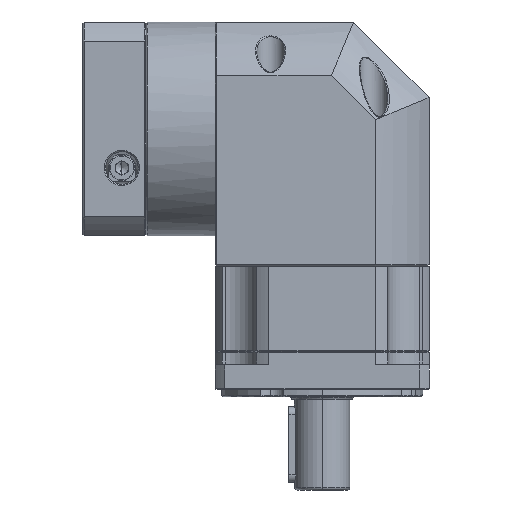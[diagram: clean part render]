
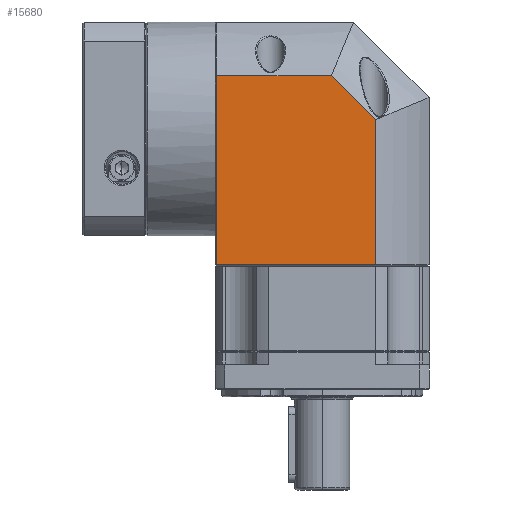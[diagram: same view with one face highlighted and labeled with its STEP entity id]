
A CAD part, left-side view. The second image highlights one B-rep face of the part: STEP entity #15680.
In plain terms, the highlighted planar face has unit normal (-1, 0, 0).
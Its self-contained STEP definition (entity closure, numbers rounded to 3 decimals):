
#1734 = PLANE ( 'NONE',  #44242 ) ;
#3675 = CARTESIAN_POINT ( 'NONE',  ( -91.772, 84.127, -26.339 ) ) ;
#5050 = CARTESIAN_POINT ( 'NONE',  ( -91.772, 38.444, 48.874 ) ) ;
#10271 = CARTESIAN_POINT ( 'NONE',  ( -91.772, 20.913, -26.339 ) ) ;
#10307 = LINE ( 'NONE', #114580, #62284 ) ;
#15680 = ADVANCED_FACE ( 'NONE', ( #88033 ), #1734, .F. ) ;
#15729 = VERTEX_POINT ( 'NONE', #86534 ) ;
#17312 = DIRECTION ( 'NONE',  ( 0., -0.707, -0.707 ) ) ;
#26987 = DIRECTION ( 'NONE',  ( 0., 0., -1. ) ) ;
#40484 = CARTESIAN_POINT ( 'NONE',  ( -91.772, 84.127, 48.874 ) ) ;
#40761 = ORIENTED_EDGE ( 'NONE', *, *, #54592, .F. ) ;
#43056 = LINE ( 'NONE', #116938, #135431 ) ;
#44242 = AXIS2_PLACEMENT_3D ( 'NONE', #76702, #128385, #75765 ) ;
#45636 = EDGE_CURVE ( 'NONE', #53817, #15729, #76584, .T. ) ;
#49466 = CARTESIAN_POINT ( 'NONE',  ( -91.772, 84.627, -26.339 ) ) ;
#53817 = VERTEX_POINT ( 'NONE', #5050 ) ;
#54592 = EDGE_CURVE ( 'NONE', #15729, #81965, #10307, .T. ) ;
#55281 = VECTOR ( 'NONE', #124610, 1000. ) ;
#62284 = VECTOR ( 'NONE', #26987, 1000. ) ;
#62414 = EDGE_CURVE ( 'NONE', #100415, #53817, #81670, .T. ) ;
#70722 = VERTEX_POINT ( 'NONE', #3675 ) ;
#71575 = EDGE_LOOP ( 'NONE', ( #124392, #40761, #99751, #104408, #110143 ) ) ;
#75765 = DIRECTION ( 'NONE',  ( 0., 1., 0. ) ) ;
#76584 = LINE ( 'NONE', #113364, #90007 ) ;
#76702 = CARTESIAN_POINT ( 'NONE',  ( -91.772, 84.627, 70.161 ) ) ;
#81670 = LINE ( 'NONE', #107565, #113582 ) ;
#81965 = VERTEX_POINT ( 'NONE', #10271 ) ;
#83642 = DIRECTION ( 'NONE',  ( 0., 0., 1. ) ) ;
#86534 = CARTESIAN_POINT ( 'NONE',  ( -91.772, 20.913, 31.343 ) ) ;
#88033 = FACE_OUTER_BOUND ( 'NONE', #71575, .T. ) ;
#88735 = EDGE_CURVE ( 'NONE', #70722, #100415, #43056, .T. ) ;
#90007 = VECTOR ( 'NONE', #17312, 1000. ) ;
#99751 = ORIENTED_EDGE ( 'NONE', *, *, #45636, .F. ) ;
#100415 = VERTEX_POINT ( 'NONE', #40484 ) ;
#104408 = ORIENTED_EDGE ( 'NONE', *, *, #62414, .F. ) ;
#107565 = CARTESIAN_POINT ( 'NONE',  ( -91.772, 84.627, 48.874 ) ) ;
#110143 = ORIENTED_EDGE ( 'NONE', *, *, #88735, .F. ) ;
#113364 = CARTESIAN_POINT ( 'NONE',  ( -91.772, 38.444, 48.874 ) ) ;
#113582 = VECTOR ( 'NONE', #119249, 1000. ) ;
#114580 = CARTESIAN_POINT ( 'NONE',  ( -91.772, 20.913, 73.661 ) ) ;
#115770 = LINE ( 'NONE', #49466, #55281 ) ;
#116938 = CARTESIAN_POINT ( 'NONE',  ( -91.772, 84.127, 70.161 ) ) ;
#119249 = DIRECTION ( 'NONE',  ( 0., -1., 0. ) ) ;
#124392 = ORIENTED_EDGE ( 'NONE', *, *, #128215, .T. ) ;
#124610 = DIRECTION ( 'NONE',  ( 0., -1., 0. ) ) ;
#128215 = EDGE_CURVE ( 'NONE', #70722, #81965, #115770, .T. ) ;
#128385 = DIRECTION ( 'NONE',  ( 1., 0., 0. ) ) ;
#135431 = VECTOR ( 'NONE', #83642, 1000. ) ;
